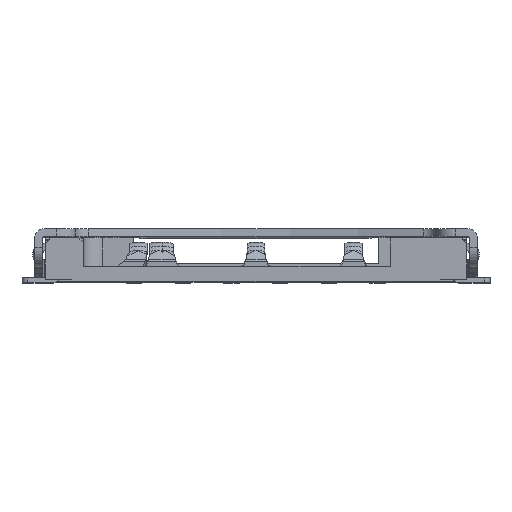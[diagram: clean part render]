
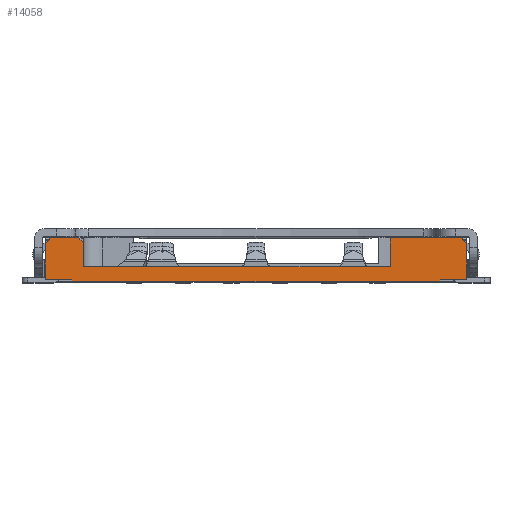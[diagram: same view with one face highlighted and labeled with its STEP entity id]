
A CAD part, top view. The second image highlights one B-rep face of the part: STEP entity #14058.
In plain terms, the highlighted planar face has unit normal (0, 0, 1).
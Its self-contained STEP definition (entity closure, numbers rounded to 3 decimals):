
#3284=DIRECTION('',(-1.,0.,0.));
#3285=VECTOR('',#3284,9.6);
#3286=CARTESIAN_POINT('',(4.8,-0.665,0.));
#3287=LINE('',#3286,#3285);
#3288=DIRECTION('',(0.,1.,0.));
#3289=VECTOR('',#3288,0.05);
#3290=CARTESIAN_POINT('',(-4.8,-0.665,0.));
#3291=LINE('',#3290,#3289);
#3292=DIRECTION('',(-1.,0.,0.));
#3293=VECTOR('',#3292,0.7);
#3294=CARTESIAN_POINT('',(-4.8,-0.615,0.));
#3295=LINE('',#3294,#3293);
#3296=DIRECTION('',(0.,1.,0.));
#3297=VECTOR('',#3296,0.93);
#3298=CARTESIAN_POINT('',(-5.5,-0.615,0.));
#3299=LINE('',#3298,#3297);
#3300=DIRECTION('',(0.707,0.707,0.));
#3301=VECTOR('',#3300,0.212);
#3302=CARTESIAN_POINT('',(-5.5,0.315,0.));
#3303=LINE('',#3302,#3301);
#3304=DIRECTION('',(1.,0.,0.));
#3305=VECTOR('',#3304,0.73);
#3306=CARTESIAN_POINT('',(-5.35,0.465,0.));
#3307=LINE('',#3306,#3305);
#3308=DIRECTION('',(0.707,-0.707,0.));
#3309=VECTOR('',#3308,0.17);
#3310=CARTESIAN_POINT('',(-4.62,0.465,0.));
#3311=LINE('',#3310,#3309);
#3312=DIRECTION('',(0.,-1.,0.));
#3313=VECTOR('',#3312,0.63);
#3314=CARTESIAN_POINT('',(-4.5,0.345,0.));
#3315=LINE('',#3314,#3313);
#3316=DIRECTION('',(1.,0.,0.));
#3317=VECTOR('',#3316,8.);
#3318=CARTESIAN_POINT('',(-4.5,-0.285,0.));
#3319=LINE('',#3318,#3317);
#3320=DIRECTION('',(0.,1.,0.));
#3321=VECTOR('',#3320,0.75);
#3322=CARTESIAN_POINT('',(3.5,-0.285,0.));
#3323=LINE('',#3322,#3321);
#3324=DIRECTION('',(1.,0.,0.));
#3325=VECTOR('',#3324,1.85);
#3326=CARTESIAN_POINT('',(3.5,0.465,0.));
#3327=LINE('',#3326,#3325);
#3328=DIRECTION('',(0.707,-0.707,0.));
#3329=VECTOR('',#3328,0.212);
#3330=CARTESIAN_POINT('',(5.35,0.465,0.));
#3331=LINE('',#3330,#3329);
#3332=DIRECTION('',(0.,-1.,0.));
#3333=VECTOR('',#3332,0.93);
#3334=CARTESIAN_POINT('',(5.5,0.315,0.));
#3335=LINE('',#3334,#3333);
#3336=DIRECTION('',(-1.,0.,0.));
#3337=VECTOR('',#3336,0.7);
#3338=CARTESIAN_POINT('',(5.5,-0.615,0.));
#3339=LINE('',#3338,#3337);
#3340=DIRECTION('',(0.,1.,0.));
#3341=VECTOR('',#3340,0.05);
#3342=CARTESIAN_POINT('',(4.8,-0.665,0.));
#3343=LINE('',#3342,#3341);
#8308=CARTESIAN_POINT('',(-4.8,-0.665,0.));
#8309=VERTEX_POINT('',#8308);
#8338=CARTESIAN_POINT('',(3.5,-0.285,0.));
#8339=VERTEX_POINT('',#8338);
#8340=CARTESIAN_POINT('',(-4.5,-0.285,0.));
#8341=VERTEX_POINT('',#8340);
#8471=CARTESIAN_POINT('',(-4.62,0.465,0.));
#8472=VERTEX_POINT('',#8471);
#8473=CARTESIAN_POINT('',(-5.35,0.465,0.));
#8474=VERTEX_POINT('',#8473);
#8582=CARTESIAN_POINT('',(-5.5,0.315,0.));
#8583=VERTEX_POINT('',#8582);
#8584=CARTESIAN_POINT('',(-5.5,-0.615,0.));
#8585=VERTEX_POINT('',#8584);
#8614=CARTESIAN_POINT('',(-4.8,-0.615,0.));
#8615=VERTEX_POINT('',#8614);
#8622=CARTESIAN_POINT('',(-4.5,0.345,0.));
#8623=VERTEX_POINT('',#8622);
#8624=CARTESIAN_POINT('',(3.5,0.465,0.));
#8625=VERTEX_POINT('',#8624);
#8626=CARTESIAN_POINT('',(5.35,0.465,0.));
#8627=VERTEX_POINT('',#8626);
#8628=CARTESIAN_POINT('',(5.5,0.315,0.));
#8629=VERTEX_POINT('',#8628);
#8630=CARTESIAN_POINT('',(5.5,-0.615,0.));
#8631=VERTEX_POINT('',#8630);
#10306=CARTESIAN_POINT('',(4.8,-0.615,0.));
#10307=VERTEX_POINT('',#10306);
#10308=CARTESIAN_POINT('',(4.8,-0.665,0.));
#10309=VERTEX_POINT('',#10308);
#14025=CARTESIAN_POINT('',(0.,-0.1,0.));
#14026=DIRECTION('',(0.,0.,1.));
#14027=DIRECTION('',(1.,0.,0.));
#14028=AXIS2_PLACEMENT_3D('',#14025,#14026,#14027);
#14029=PLANE('',#14028);
#14030=ORIENTED_EDGE('',*,*,#13873,.T.);
#14032=ORIENTED_EDGE('',*,*,#14031,.T.);
#14034=ORIENTED_EDGE('',*,*,#14033,.T.);
#14036=ORIENTED_EDGE('',*,*,#14035,.T.);
#14038=ORIENTED_EDGE('',*,*,#14037,.T.);
#14039=ORIENTED_EDGE('',*,*,#13624,.T.);
#14041=ORIENTED_EDGE('',*,*,#14040,.T.);
#14043=ORIENTED_EDGE('',*,*,#14042,.T.);
#14044=ORIENTED_EDGE('',*,*,#10776,.T.);
#14046=ORIENTED_EDGE('',*,*,#14045,.T.);
#14047=ORIENTED_EDGE('',*,*,#13582,.T.);
#14049=ORIENTED_EDGE('',*,*,#14048,.T.);
#14051=ORIENTED_EDGE('',*,*,#14050,.T.);
#14053=ORIENTED_EDGE('',*,*,#14052,.T.);
#14055=ORIENTED_EDGE('',*,*,#14054,.F.);
#14056=EDGE_LOOP('',(#14030,#14032,#14034,#14036,#14038,#14039,#14041,#14043,
#14044,#14046,#14047,#14049,#14051,#14053,#14055));
#14057=FACE_OUTER_BOUND('',#14056,.F.);
#10776=EDGE_CURVE('',#8341,#8339,#3319,.T.);
#13582=EDGE_CURVE('',#8625,#8627,#3327,.T.);
#13624=EDGE_CURVE('',#8474,#8472,#3307,.T.);
#13873=EDGE_CURVE('',#10309,#8309,#3287,.T.);
#14031=EDGE_CURVE('',#8309,#8615,#3291,.T.);
#14033=EDGE_CURVE('',#8615,#8585,#3295,.T.);
#14035=EDGE_CURVE('',#8585,#8583,#3299,.T.);
#14037=EDGE_CURVE('',#8583,#8474,#3303,.T.);
#14040=EDGE_CURVE('',#8472,#8623,#3311,.T.);
#14042=EDGE_CURVE('',#8623,#8341,#3315,.T.);
#14045=EDGE_CURVE('',#8339,#8625,#3323,.T.);
#14048=EDGE_CURVE('',#8627,#8629,#3331,.T.);
#14050=EDGE_CURVE('',#8629,#8631,#3335,.T.);
#14052=EDGE_CURVE('',#8631,#10307,#3339,.T.);
#14054=EDGE_CURVE('',#10309,#10307,#3343,.T.);
#14058=ADVANCED_FACE('',(#14057),#14029,.T.);
